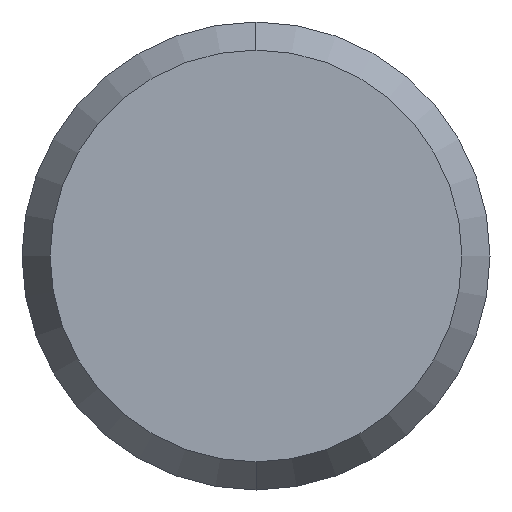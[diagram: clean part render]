
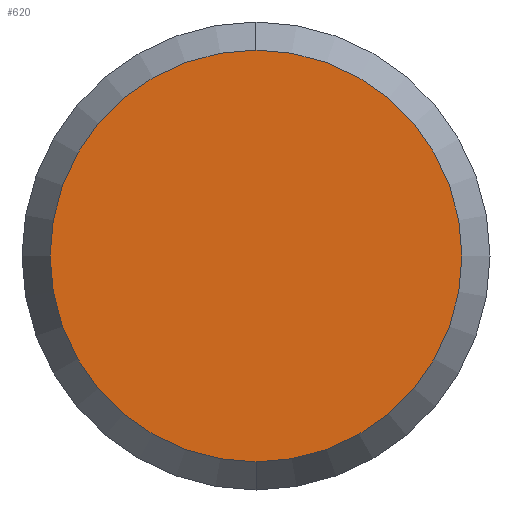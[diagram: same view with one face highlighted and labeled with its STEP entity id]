
A CAD part, left-side view. The second image highlights one B-rep face of the part: STEP entity #620.
In plain terms, the highlighted planar face has unit normal (-1, 0, 0).
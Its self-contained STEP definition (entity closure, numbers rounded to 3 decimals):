
#43 = DIRECTION ( 'NONE',  ( -1., 0., 0. ) ) ;
#79 = ORIENTED_EDGE ( 'NONE', *, *, #317, .T. ) ;
#93 = CARTESIAN_POINT ( 'NONE',  ( 0., 0., 0. ) ) ;
#111 = CARTESIAN_POINT ( 'NONE',  ( 0., 0., 0. ) ) ;
#119 = AXIS2_PLACEMENT_3D ( 'NONE', #93, #651, #711 ) ;
#170 = CARTESIAN_POINT ( 'NONE',  ( 0., 0., 4.4 ) ) ;
#248 = DIRECTION ( 'NONE',  ( 1., 0., 0. ) ) ;
#307 = DIRECTION ( 'NONE',  ( 0., 0., 1. ) ) ;
#317 = EDGE_CURVE ( 'NONE', #545, #817, #734, .T. ) ;
#333 = ORIENTED_EDGE ( 'NONE', *, *, #635, .T. ) ;
#450 = PLANE ( 'NONE',  #747 ) ;
#516 = CARTESIAN_POINT ( 'NONE',  ( 0., 0., 0. ) ) ;
#545 = VERTEX_POINT ( 'NONE', #170 ) ;
#613 = CIRCLE ( 'NONE', #721, 4.4 ) ;
#620 = ADVANCED_FACE ( 'NONE', ( #682 ), #450, .F. ) ;
#635 = EDGE_CURVE ( 'NONE', #817, #545, #613, .T. ) ;
#651 = DIRECTION ( 'NONE',  ( -1., 0., 0. ) ) ;
#663 = EDGE_LOOP ( 'NONE', ( #333, #79 ) ) ;
#682 = FACE_OUTER_BOUND ( 'NONE', #663, .T. ) ;
#711 = DIRECTION ( 'NONE',  ( 0., 0., 1. ) ) ;
#721 = AXIS2_PLACEMENT_3D ( 'NONE', #516, #43, #307 ) ;
#724 = CARTESIAN_POINT ( 'NONE',  ( 0., 0., -4.4 ) ) ;
#734 = CIRCLE ( 'NONE', #119, 4.4 ) ;
#747 = AXIS2_PLACEMENT_3D ( 'NONE', #111, #248, #834 ) ;
#817 = VERTEX_POINT ( 'NONE', #724 ) ;
#834 = DIRECTION ( 'NONE',  ( 0., 0., -1. ) ) ;
